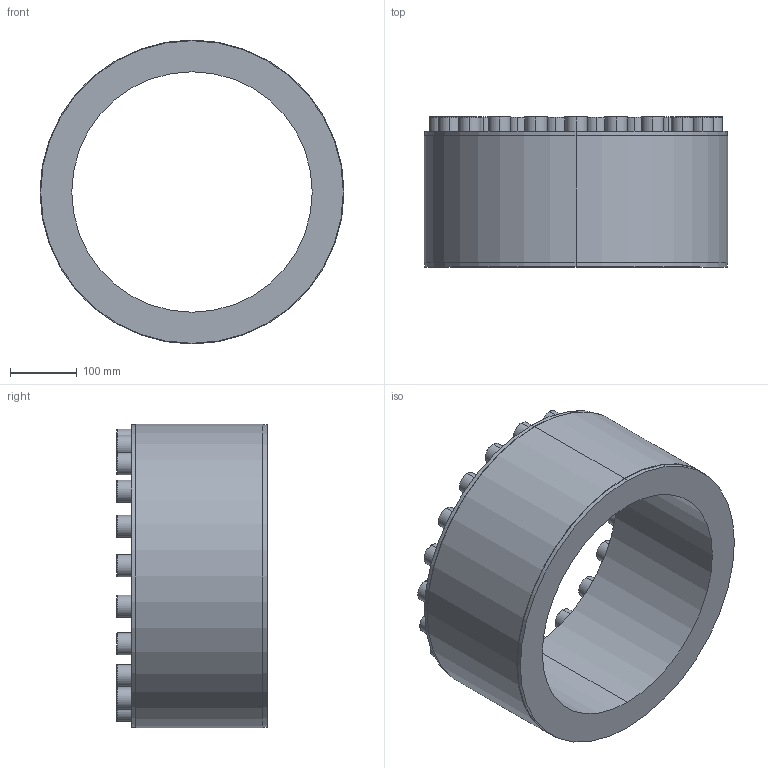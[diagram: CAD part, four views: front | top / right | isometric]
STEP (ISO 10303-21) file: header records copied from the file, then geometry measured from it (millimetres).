
FILE_DESCRIPTION (( 'STEP AP203' ), '1' );
FILE_NAME ('PL-D1 360-455.STEP', '2021-10-23T00:26:00', ( '' ), ( '' ), 'SwSTEP 2.0', 'SolidWorks 2018', '' );
FILE_SCHEMA (( 'CONFIG_CONTROL_DESIGN' ));
Length unit declared in the file: millimetre
Products named in the file (1): PL-D1 360-455
Bounding box: 455 x 225 x 455 mm (x, y, z)
Volume: 12662994.2 mm3; surface area: 702328.7 mm2
Topology: 1 solids, 1 shells, 264 faces, 612 edges, 394 vertices
Faces by surface type: plane 172, cylinder 50, torus 42
Entity records: 7545 total; most frequent: DIRECTION 1326, CARTESIAN_POINT 1271, ORIENTED_EDGE 1224, EDGE_CURVE 612, AXIS2_PLACEMENT_3D 449, VECTOR 428, LINE 428, VERTEX_POINT 394
